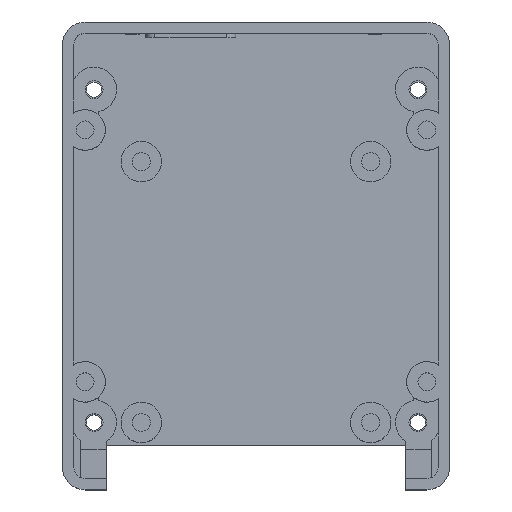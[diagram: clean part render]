
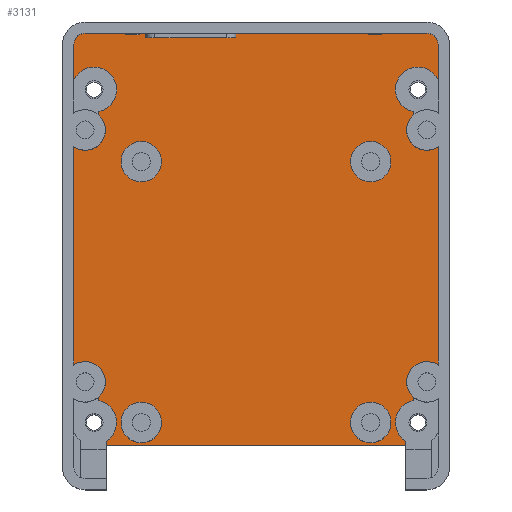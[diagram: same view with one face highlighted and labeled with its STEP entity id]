
A CAD part, top view. The second image highlights one B-rep face of the part: STEP entity #3131.
In plain terms, the highlighted planar face has unit normal (0, 0, 1).
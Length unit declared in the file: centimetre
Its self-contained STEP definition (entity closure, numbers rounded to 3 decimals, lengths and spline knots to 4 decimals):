
#21=FACE_BOUND('',#451,.T.);
#22=FACE_BOUND('',#452,.T.);
#23=FACE_BOUND('',#453,.T.);
#24=FACE_BOUND('',#454,.T.);
#128=CIRCLE('',#3339,0.5);
#129=CIRCLE('',#3340,0.25);
#130=CIRCLE('',#3341,0.25);
#131=CIRCLE('',#3342,0.5);
#132=CIRCLE('',#3343,0.45);
#133=CIRCLE('',#3344,0.45);
#134=CIRCLE('',#3345,0.5);
#135=CIRCLE('',#3346,0.5);
#136=CIRCLE('',#3347,0.45);
#137=CIRCLE('',#3348,0.45);
#138=CIRCLE('',#3349,0.45);
#139=CIRCLE('',#3350,0.45);
#140=CIRCLE('',#3351,0.45);
#141=CIRCLE('',#3352,0.45);
#273=FACE_OUTER_BOUND('',#450,.T.);
#450=EDGE_LOOP('',(#2205,#2206,#2207,#2208,#2209,#2210,#2211,#2212,#2213,
#2214,#2215,#2216,#2217,#2218,#2219,#2220,#2221,#2222,#2223,#2224,#2225,
#2226,#2227,#2228,#2229,#2230,#2231,#2232,#2233,#2234));
#451=EDGE_LOOP('',(#2235));
#452=EDGE_LOOP('',(#2236));
#453=EDGE_LOOP('',(#2237));
#454=EDGE_LOOP('',(#2238));
#635=LINE('',#4578,#967);
#659=LINE('',#4627,#991);
#695=LINE('',#4743,#1027);
#696=LINE('',#4748,#1028);
#697=LINE('',#4752,#1029);
#698=LINE('',#4754,#1030);
#699=LINE('',#4756,#1031);
#700=LINE('',#4758,#1032);
#701=LINE('',#4760,#1033);
#702=LINE('',#4762,#1034);
#703=LINE('',#4764,#1035);
#704=LINE('',#4766,#1036);
#705=LINE('',#4768,#1037);
#706=LINE('',#4772,#1038);
#707=LINE('',#4776,#1039);
#708=LINE('',#4780,#1040);
#709=LINE('',#4784,#1041);
#710=LINE('',#4786,#1042);
#711=LINE('',#4790,#1043);
#712=LINE('',#4794,#1044);
#967=VECTOR('',#3624,1.);
#991=VECTOR('',#3660,1.);
#1027=VECTOR('',#3778,1.);
#1028=VECTOR('',#3783,1.);
#1029=VECTOR('',#3786,1.);
#1030=VECTOR('',#3787,1.);
#1031=VECTOR('',#3788,1.);
#1032=VECTOR('',#3789,1.);
#1033=VECTOR('',#3790,1.);
#1034=VECTOR('',#3791,1.);
#1035=VECTOR('',#3792,1.);
#1036=VECTOR('',#3793,1.);
#1037=VECTOR('',#3794,1.);
#1038=VECTOR('',#3797,1.);
#1039=VECTOR('',#3800,1.);
#1040=VECTOR('',#3803,1.);
#1041=VECTOR('',#3806,1.);
#1042=VECTOR('',#3809,1.);
#1043=VECTOR('',#3812,1.);
#1044=VECTOR('',#3815,1.);
#1294=VERTEX_POINT('',#4575);
#1295=VERTEX_POINT('',#4577);
#1313=VERTEX_POINT('',#4624);
#1314=VERTEX_POINT('',#4626);
#1351=VERTEX_POINT('',#4737);
#1353=VERTEX_POINT('',#4741);
#1354=VERTEX_POINT('',#4745);
#1355=VERTEX_POINT('',#4747);
#1356=VERTEX_POINT('',#4749);
#1357=VERTEX_POINT('',#4751);
#1358=VERTEX_POINT('',#4753);
#1359=VERTEX_POINT('',#4755);
#1360=VERTEX_POINT('',#4757);
#1361=VERTEX_POINT('',#4759);
#1362=VERTEX_POINT('',#4761);
#1363=VERTEX_POINT('',#4763);
#1364=VERTEX_POINT('',#4765);
#1365=VERTEX_POINT('',#4767);
#1366=VERTEX_POINT('',#4769);
#1367=VERTEX_POINT('',#4771);
#1368=VERTEX_POINT('',#4773);
#1369=VERTEX_POINT('',#4775);
#1370=VERTEX_POINT('',#4777);
#1371=VERTEX_POINT('',#4779);
#1372=VERTEX_POINT('',#4781);
#1373=VERTEX_POINT('',#4783);
#1374=VERTEX_POINT('',#4787);
#1375=VERTEX_POINT('',#4789);
#1376=VERTEX_POINT('',#4791);
#1377=VERTEX_POINT('',#4793);
#1378=VERTEX_POINT('',#4796);
#1379=VERTEX_POINT('',#4798);
#1380=VERTEX_POINT('',#4800);
#1381=VERTEX_POINT('',#4802);
#1609=EDGE_CURVE('',#1295,#1294,#635,.T.);
#1633=EDGE_CURVE('',#1314,#1313,#659,.T.);
#1689=EDGE_CURVE('',#1351,#1353,#695,.T.);
#1690=EDGE_CURVE('',#1353,#1354,#128,.T.);
#1691=EDGE_CURVE('',#1355,#1354,#696,.T.);
#1692=EDGE_CURVE('',#1356,#1355,#129,.T.);
#1693=EDGE_CURVE('',#1357,#1356,#697,.T.);
#1694=EDGE_CURVE('',#1358,#1357,#698,.T.);
#1695=EDGE_CURVE('',#1359,#1358,#699,.T.);
#1696=EDGE_CURVE('',#1360,#1359,#700,.T.);
#1697=EDGE_CURVE('',#1361,#1360,#701,.T.);
#1698=EDGE_CURVE('',#1362,#1361,#702,.T.);
#1699=EDGE_CURVE('',#1363,#1362,#703,.T.);
#1700=EDGE_CURVE('',#1364,#1363,#704,.T.);
#1701=EDGE_CURVE('',#1365,#1364,#705,.T.);
#1702=EDGE_CURVE('',#1366,#1365,#130,.T.);
#1703=EDGE_CURVE('',#1367,#1366,#706,.T.);
#1704=EDGE_CURVE('',#1367,#1368,#131,.T.);
#1705=EDGE_CURVE('',#1368,#1369,#707,.T.);
#1706=EDGE_CURVE('',#1370,#1369,#132,.T.);
#1707=EDGE_CURVE('',#1371,#1370,#708,.T.);
#1708=EDGE_CURVE('',#1372,#1371,#133,.T.);
#1709=EDGE_CURVE('',#1372,#1373,#709,.T.);
#1710=EDGE_CURVE('',#1373,#1314,#134,.T.);
#1711=EDGE_CURVE('',#1313,#1295,#710,.T.);
#1712=EDGE_CURVE('',#1294,#1374,#135,.T.);
#1713=EDGE_CURVE('',#1374,#1375,#711,.T.);
#1714=EDGE_CURVE('',#1376,#1375,#136,.T.);
#1715=EDGE_CURVE('',#1377,#1376,#712,.T.);
#1716=EDGE_CURVE('',#1351,#1377,#137,.T.);
#1717=EDGE_CURVE('',#1378,#1378,#138,.T.);
#1718=EDGE_CURVE('',#1379,#1379,#139,.T.);
#1719=EDGE_CURVE('',#1380,#1380,#140,.T.);
#1720=EDGE_CURVE('',#1381,#1381,#141,.T.);
#2205=ORIENTED_EDGE('',*,*,#1689,.T.);
#2206=ORIENTED_EDGE('',*,*,#1690,.T.);
#2207=ORIENTED_EDGE('',*,*,#1691,.F.);
#2208=ORIENTED_EDGE('',*,*,#1692,.F.);
#2209=ORIENTED_EDGE('',*,*,#1693,.F.);
#2210=ORIENTED_EDGE('',*,*,#1694,.F.);
#2211=ORIENTED_EDGE('',*,*,#1695,.F.);
#2212=ORIENTED_EDGE('',*,*,#1696,.F.);
#2213=ORIENTED_EDGE('',*,*,#1697,.F.);
#2214=ORIENTED_EDGE('',*,*,#1698,.F.);
#2215=ORIENTED_EDGE('',*,*,#1699,.F.);
#2216=ORIENTED_EDGE('',*,*,#1700,.F.);
#2217=ORIENTED_EDGE('',*,*,#1701,.F.);
#2218=ORIENTED_EDGE('',*,*,#1702,.F.);
#2219=ORIENTED_EDGE('',*,*,#1703,.F.);
#2220=ORIENTED_EDGE('',*,*,#1704,.T.);
#2221=ORIENTED_EDGE('',*,*,#1705,.T.);
#2222=ORIENTED_EDGE('',*,*,#1706,.F.);
#2223=ORIENTED_EDGE('',*,*,#1707,.F.);
#2224=ORIENTED_EDGE('',*,*,#1708,.F.);
#2225=ORIENTED_EDGE('',*,*,#1709,.T.);
#2226=ORIENTED_EDGE('',*,*,#1710,.T.);
#2227=ORIENTED_EDGE('',*,*,#1633,.T.);
#2228=ORIENTED_EDGE('',*,*,#1711,.T.);
#2229=ORIENTED_EDGE('',*,*,#1609,.T.);
#2230=ORIENTED_EDGE('',*,*,#1712,.T.);
#2231=ORIENTED_EDGE('',*,*,#1713,.T.);
#2232=ORIENTED_EDGE('',*,*,#1714,.F.);
#2233=ORIENTED_EDGE('',*,*,#1715,.F.);
#2234=ORIENTED_EDGE('',*,*,#1716,.F.);
#2235=ORIENTED_EDGE('',*,*,#1717,.F.);
#2236=ORIENTED_EDGE('',*,*,#1718,.F.);
#2237=ORIENTED_EDGE('',*,*,#1719,.F.);
#2238=ORIENTED_EDGE('',*,*,#1720,.F.);
#3011=PLANE('',#3338);
#3131=ADVANCED_FACE('',(#273,#21,#22,#23,#24),#3011,.F.);
#3338=AXIS2_PLACEMENT_3D('',#4744,#3779,#3780);
#3339=AXIS2_PLACEMENT_3D('',#4746,#3781,#3782);
#3340=AXIS2_PLACEMENT_3D('',#4750,#3784,#3785);
#3341=AXIS2_PLACEMENT_3D('',#4770,#3795,#3796);
#3342=AXIS2_PLACEMENT_3D('',#4774,#3798,#3799);
#3343=AXIS2_PLACEMENT_3D('',#4778,#3801,#3802);
#3344=AXIS2_PLACEMENT_3D('',#4782,#3804,#3805);
#3345=AXIS2_PLACEMENT_3D('',#4785,#3807,#3808);
#3346=AXIS2_PLACEMENT_3D('',#4788,#3810,#3811);
#3347=AXIS2_PLACEMENT_3D('',#4792,#3813,#3814);
#3348=AXIS2_PLACEMENT_3D('',#4795,#3816,#3817);
#3349=AXIS2_PLACEMENT_3D('',#4797,#3818,#3819);
#3350=AXIS2_PLACEMENT_3D('',#4799,#3820,#3821);
#3351=AXIS2_PLACEMENT_3D('',#4801,#3822,#3823);
#3352=AXIS2_PLACEMENT_3D('',#4803,#3824,#3825);
#3624=DIRECTION('',(0.,1.,0.));
#3660=DIRECTION('',(0.,-1.,0.));
#3778=DIRECTION('',(0.,1.,0.));
#3779=DIRECTION('center_axis',(0.,0.,-1.));
#3780=DIRECTION('ref_axis',(-1.,0.,0.));
#3781=DIRECTION('center_axis',(0.,0.,-1.));
#3782=DIRECTION('ref_axis',(1.,0.,0.));
#3783=DIRECTION('',(0.,-1.,0.));
#3784=DIRECTION('center_axis',(0.,0.,-1.));
#3785=DIRECTION('ref_axis',(0.,1.,0.));
#3786=DIRECTION('',(1.,0.,0.));
#3787=DIRECTION('',(0.,1.,0.));
#3788=DIRECTION('',(1.,0.,0.));
#3789=DIRECTION('',(0.,-1.,0.));
#3790=DIRECTION('',(1.,0.,0.));
#3791=DIRECTION('',(0.,1.,0.));
#3792=DIRECTION('',(1.,0.,0.));
#3793=DIRECTION('',(0.,-1.,0.));
#3794=DIRECTION('',(1.,0.,0.));
#3795=DIRECTION('center_axis',(0.,0.,-1.));
#3796=DIRECTION('ref_axis',(-1.,0.,0.));
#3797=DIRECTION('',(0.,1.,0.));
#3798=DIRECTION('center_axis',(0.,0.,-1.));
#3799=DIRECTION('ref_axis',(1.,0.,0.));
#3800=DIRECTION('',(0.,-1.,0.));
#3801=DIRECTION('center_axis',(0.,0.,1.));
#3802=DIRECTION('ref_axis',(-1.,0.,0.));
#3803=DIRECTION('',(0.,1.,0.));
#3804=DIRECTION('center_axis',(0.,0.,1.));
#3805=DIRECTION('ref_axis',(-1.,0.,0.));
#3806=DIRECTION('',(0.,-1.,0.));
#3807=DIRECTION('center_axis',(0.,0.,-1.));
#3808=DIRECTION('ref_axis',(1.,0.,0.));
#3809=DIRECTION('',(1.,0.,0.));
#3810=DIRECTION('center_axis',(0.,0.,-1.));
#3811=DIRECTION('ref_axis',(1.,0.,0.));
#3812=DIRECTION('',(0.,1.,0.));
#3813=DIRECTION('center_axis',(0.,0.,1.));
#3814=DIRECTION('ref_axis',(-1.,0.,0.));
#3815=DIRECTION('',(0.,-1.,0.));
#3816=DIRECTION('center_axis',(0.,0.,1.));
#3817=DIRECTION('ref_axis',(-1.,0.,0.));
#3818=DIRECTION('center_axis',(0.,0.,1.));
#3819=DIRECTION('ref_axis',(-1.,0.,0.));
#3820=DIRECTION('center_axis',(0.,0.,1.));
#3821=DIRECTION('ref_axis',(-1.,0.,0.));
#3822=DIRECTION('center_axis',(0.,0.,1.));
#3823=DIRECTION('ref_axis',(-1.,0.,0.));
#3824=DIRECTION('center_axis',(0.,0.,1.));
#3825=DIRECTION('ref_axis',(-1.,0.,0.));
#4575=CARTESIAN_POINT('',(3.33,-4.1208,0.25));
#4577=CARTESIAN_POINT('',(3.33,-4.2,0.25));
#4578=CARTESIAN_POINT('',(3.33,-2.025,0.25));
#4624=CARTESIAN_POINT('',(-3.33,-4.2,0.25));
#4626=CARTESIAN_POINT('',(-3.33,-4.1208,0.25));
#4627=CARTESIAN_POINT('',(-3.33,-2.6,0.25));
#4737=CARTESIAN_POINT('',(3.5,3.1354,0.25));
#4741=CARTESIAN_POINT('',(3.5,3.2101,0.25));
#4743=CARTESIAN_POINT('',(3.5,1.85,0.25));
#4744=CARTESIAN_POINT('Origin',(0.,0.,0.25));
#4745=CARTESIAN_POINT('',(4.05,3.9179,0.25));
#4746=CARTESIAN_POINT('Origin',(3.6,3.7,0.25));
#4747=CARTESIAN_POINT('',(4.05,4.7,0.25));
#4748=CARTESIAN_POINT('',(4.05,4.7,0.25));
#4749=CARTESIAN_POINT('',(3.8,4.95,0.25));
#4750=CARTESIAN_POINT('Origin',(3.8,4.7,0.25));
#4751=CARTESIAN_POINT('',(2.8,4.95,0.25));
#4752=CARTESIAN_POINT('',(-3.8,4.95,0.25));
#4753=CARTESIAN_POINT('',(2.8,4.92,0.25));
#4754=CARTESIAN_POINT('',(2.8,2.525,0.25));
#4755=CARTESIAN_POINT('',(2.5,4.92,0.25));
#4756=CARTESIAN_POINT('',(1.4,4.92,0.25));
#4757=CARTESIAN_POINT('',(2.5,4.95,0.25));
#4758=CARTESIAN_POINT('',(2.5,2.46,0.25));
#4759=CARTESIAN_POINT('',(-2.6,4.95,0.25));
#4760=CARTESIAN_POINT('',(-3.8,4.95,0.25));
#4761=CARTESIAN_POINT('',(-2.6,4.92,0.25));
#4762=CARTESIAN_POINT('',(-2.6,2.525,0.25));
#4763=CARTESIAN_POINT('',(-2.9,4.92,0.25));
#4764=CARTESIAN_POINT('',(-1.3,4.92,0.25));
#4765=CARTESIAN_POINT('',(-2.9,4.95,0.25));
#4766=CARTESIAN_POINT('',(-2.9,2.46,0.25));
#4767=CARTESIAN_POINT('',(-3.8,4.95,0.25));
#4768=CARTESIAN_POINT('',(-3.8,4.95,0.25));
#4769=CARTESIAN_POINT('',(-4.05,4.7,0.25));
#4770=CARTESIAN_POINT('Origin',(-3.8,4.7,0.25));
#4771=CARTESIAN_POINT('',(-4.05,3.9179,0.25));
#4772=CARTESIAN_POINT('',(-4.05,-4.7,0.25));
#4773=CARTESIAN_POINT('',(-3.5,3.2101,0.25));
#4774=CARTESIAN_POINT('Origin',(-3.6,3.7,0.25));
#4775=CARTESIAN_POINT('',(-3.5,3.1354,0.25));
#4776=CARTESIAN_POINT('',(-3.5,1.4,0.25));
#4777=CARTESIAN_POINT('',(-4.05,2.4258,0.25));
#4778=CARTESIAN_POINT('Origin',(-3.8,2.8,0.25));
#4779=CARTESIAN_POINT('',(-4.05,-2.4258,0.25));
#4780=CARTESIAN_POINT('',(-4.05,-4.7,0.25));
#4781=CARTESIAN_POINT('',(-3.5,-3.1354,0.25));
#4782=CARTESIAN_POINT('Origin',(-3.8,-2.8,0.25));
#4783=CARTESIAN_POINT('',(-3.5,-3.2101,0.25));
#4784=CARTESIAN_POINT('',(-3.5,-1.85,0.25));
#4785=CARTESIAN_POINT('Origin',(-3.6,-3.7,0.25));
#4786=CARTESIAN_POINT('',(1.665,-4.2,0.25));
#4787=CARTESIAN_POINT('',(3.5,-3.2101,0.25));
#4788=CARTESIAN_POINT('Origin',(3.6,-3.7,0.25));
#4789=CARTESIAN_POINT('',(3.5,-3.1354,0.25));
#4790=CARTESIAN_POINT('',(3.5,-1.4,0.25));
#4791=CARTESIAN_POINT('',(4.05,-2.4258,0.25));
#4792=CARTESIAN_POINT('Origin',(3.8,-2.8,0.25));
#4793=CARTESIAN_POINT('',(4.05,2.4258,0.25));
#4794=CARTESIAN_POINT('',(4.05,4.7,0.25));
#4795=CARTESIAN_POINT('Origin',(3.8,2.8,0.25));
#4796=CARTESIAN_POINT('',(-2.1,-3.7,0.25));
#4797=CARTESIAN_POINT('Origin',(-2.55,-3.7,0.25));
#4798=CARTESIAN_POINT('',(3.,2.1,0.25));
#4799=CARTESIAN_POINT('Origin',(2.55,2.1,0.25));
#4800=CARTESIAN_POINT('',(3.,-3.7,0.25));
#4801=CARTESIAN_POINT('Origin',(2.55,-3.7,0.25));
#4802=CARTESIAN_POINT('',(-2.1,2.1,0.25));
#4803=CARTESIAN_POINT('Origin',(-2.55,2.1,0.25));
